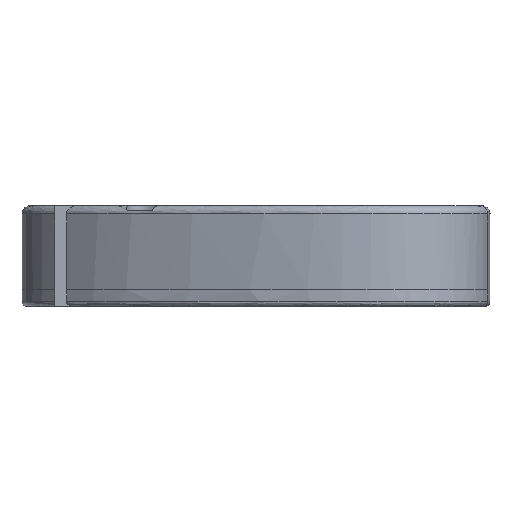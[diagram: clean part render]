
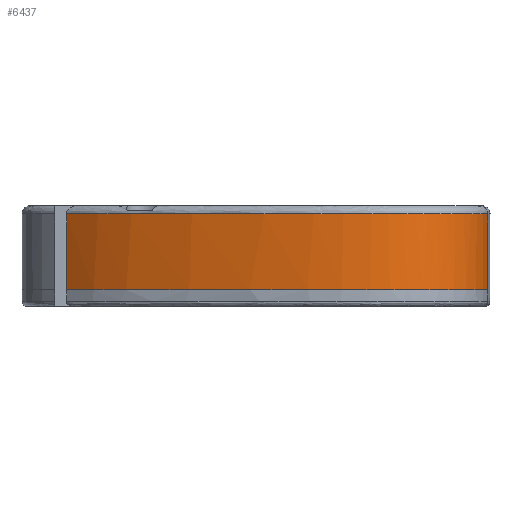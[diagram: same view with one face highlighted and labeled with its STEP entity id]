
A CAD part, front view. The second image highlights one B-rep face of the part: STEP entity #6437.
In plain terms, the highlighted free-form (B-spline) face has degree [5, 1] with [18, 2] control points.
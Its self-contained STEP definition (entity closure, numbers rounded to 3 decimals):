
#1772=LINE('',#12810,#7438);
#2325=VERTEX_POINT('',#11547);
#2326=VERTEX_POINT('',#11582);
#2358=VERTEX_POINT('',#11709);
#2366=VERTEX_POINT('',#12647);
#2682=B_SPLINE_CURVE_WITH_KNOTS('',3,(#11548,#11549,#11550,#11551,#11552,
#11553,#11554,#11555,#11556,#11557,#11558,#11559,#11560,#11561,#11562,#11563,
#11564,#11565,#11566,#11567,#11568,#11569,#11570,#11571,#11572,#11573,#11574,
#11575,#11576,#11577,#11578,#11579,#11580,#11581),.UNSPECIFIED.,.F.,.U.,
(4,2,2,2,2,2,2,2,2,2,2,2,2,2,2,2,4),(0.,1.93,6.621,
9.832,13.042,17.055,19.563,22.071,
26.084,29.294,32.504,33.527,34.55,
35.572,36.595,38.207,39.125),.UNSPECIFIED.);
#2689=B_SPLINE_CURVE_WITH_KNOTS('',3,(#11710,#11711,#11712,#11713),.UNSPECIFIED.,
.F.,.U.,(4,4),(-4.584,0.),.UNSPECIFIED.);
#2692=B_SPLINE_CURVE_WITH_KNOTS('',3,(#12213,#12214,#12215,#12216,#12217,
#12218,#12219,#12220),.UNSPECIFIED.,.F.,.U.,(4,1,1,1,1,4),(6.,7.,8.,9.,10.,
10.5),.UNSPECIFIED.);
#3523=EDGE_CURVE('',#2325,#2326,#2682,.F.);
#3563=EDGE_CURVE('',#2325,#2358,#2689,.T.);
#3581=EDGE_CURVE('',#2366,#2358,#2692,.T.);
#3583=EDGE_CURVE('',#2366,#2326,#1772,.T.);
#5347=ORIENTED_EDGE('',*,*,#3563,.T.);
#5348=ORIENTED_EDGE('',*,*,#3581,.F.);
#5349=ORIENTED_EDGE('',*,*,#3583,.T.);
#5350=ORIENTED_EDGE('',*,*,#3523,.F.);
#5731=EDGE_LOOP('',(#5347,#5348,#5349,#5350));
#6106=FACE_BOUND('',#5731,.T.);
#6437=ADVANCED_FACE('',(#6106),#6604,.T.);
#6604=B_SPLINE_SURFACE_WITH_KNOTS('',5,1,((#12774,#12775),(#12776,#12777),
(#12778,#12779),(#12780,#12781),(#12782,#12783),(#12784,#12785),(#12786,
#12787),(#12788,#12789),(#12790,#12791),(#12792,#12793),(#12794,#12795),
(#12796,#12797),(#12798,#12799),(#12800,#12801),(#12802,#12803),(#12804,
#12805),(#12806,#12807),(#12808,#12809)),.UNSPECIFIED.,.F.,.F.,.U.,(6,3,
3,3,3,6),(2,2),(-10.5,-10.,-9.,-8.,-7.,-6.),(0.,5.),.UNSPECIFIED.);
#7438=VECTOR('',#13728,1.);
#11547=CARTESIAN_POINT('',(167.448,105.201,5.5));
#11548=CARTESIAN_POINT('',(192.473,104.235,5.5));
#11549=CARTESIAN_POINT('',(192.329,103.554,5.5));
#11550=CARTESIAN_POINT('',(192.077,102.892,5.5));
#11551=CARTESIAN_POINT('',(190.913,100.803,5.5));
#11552=CARTESIAN_POINT('',(189.517,99.645,5.5));
#11553=CARTESIAN_POINT('',(186.807,98.744,5.5));
#11554=CARTESIAN_POINT('',(185.666,98.662,5.5));
#11555=CARTESIAN_POINT('',(183.441,98.726,5.5));
#11556=CARTESIAN_POINT('',(182.355,98.874,5.5));
#11557=CARTESIAN_POINT('',(179.942,99.343,5.5));
#11558=CARTESIAN_POINT('',(178.624,99.702,5.5));
#11559=CARTESIAN_POINT('',(176.522,100.384,5.5));
#11560=CARTESIAN_POINT('',(175.726,100.67,5.5));
#11561=CARTESIAN_POINT('',(174.148,101.29,5.5));
#11562=CARTESIAN_POINT('',(173.364,101.624,5.5));
#11563=CARTESIAN_POINT('',(171.36,102.568,5.5));
#11564=CARTESIAN_POINT('',(170.157,103.219,5.5));
#11565=CARTESIAN_POINT('',(168.113,104.609,5.5));
#11566=CARTESIAN_POINT('',(167.231,105.313,5.5));
#11567=CARTESIAN_POINT('',(165.727,107.006,5.5));
#11568=CARTESIAN_POINT('',(165.081,108.015,5.5));
#11569=CARTESIAN_POINT('',(164.796,109.599,5.5));
#11570=CARTESIAN_POINT('',(164.775,110.003,5.5));
#11571=CARTESIAN_POINT('',(164.917,110.824,5.5));
#11572=CARTESIAN_POINT('',(165.094,111.25,5.5));
#11573=CARTESIAN_POINT('',(165.694,111.918,5.5));
#11574=CARTESIAN_POINT('',(166.094,112.137,5.5));
#11575=CARTESIAN_POINT('',(166.86,112.385,5.5));
#11576=CARTESIAN_POINT('',(167.229,112.437,5.5));
#11577=CARTESIAN_POINT('',(168.168,112.519,5.5));
#11578=CARTESIAN_POINT('',(168.722,112.509,5.5));
#11579=CARTESIAN_POINT('',(169.583,112.472,5.5));
#11580=CARTESIAN_POINT('',(169.894,112.453,5.5));
#11581=CARTESIAN_POINT('',(170.202,112.431,5.5));
#11582=CARTESIAN_POINT('',(192.473,104.235,5.5));
#11709=CARTESIAN_POINT('',(167.448,105.201,1.));
#11710=CARTESIAN_POINT('',(167.448,105.201,5.584));
#11711=CARTESIAN_POINT('',(167.448,105.201,4.056));
#11712=CARTESIAN_POINT('',(167.448,105.201,2.528));
#11713=CARTESIAN_POINT('',(167.448,105.201,1.));
#12213=CARTESIAN_POINT('',(192.473,104.235,1.));
#12214=CARTESIAN_POINT('',(191.999,101.997,1.));
#12215=CARTESIAN_POINT('',(188.524,97.074,1.));
#12216=CARTESIAN_POINT('',(174.375,100.509,1.));
#12217=CARTESIAN_POINT('',(164.358,106.473,1.));
#12218=CARTESIAN_POINT('',(164.358,112.627,1.));
#12219=CARTESIAN_POINT('',(168.623,112.543,1.));
#12220=CARTESIAN_POINT('',(170.202,112.431,1.));
#12647=CARTESIAN_POINT('',(192.473,104.235,1.));
#12774=CARTESIAN_POINT('',(170.202,112.431,1.));
#12775=CARTESIAN_POINT('',(170.202,112.431,6.));
#12776=CARTESIAN_POINT('',(169.255,112.498,1.));
#12777=CARTESIAN_POINT('',(169.255,112.498,6.));
#12778=CARTESIAN_POINT('',(168.354,112.54,1.));
#12779=CARTESIAN_POINT('',(168.354,112.54,6.));
#12780=CARTESIAN_POINT('',(167.533,112.523,1.));
#12781=CARTESIAN_POINT('',(167.533,112.523,6.));
#12782=CARTESIAN_POINT('',(165.401,112.196,1.));
#12783=CARTESIAN_POINT('',(165.401,112.196,6.));
#12784=CARTESIAN_POINT('',(164.548,110.736,1.));
#12785=CARTESIAN_POINT('',(164.548,110.736,6.));
#12786=CARTESIAN_POINT('',(164.525,109.45,1.));
#12787=CARTESIAN_POINT('',(164.525,109.45,6.));
#12788=CARTESIAN_POINT('',(165.527,106.639,1.));
#12789=CARTESIAN_POINT('',(165.527,106.639,6.));
#12790=CARTESIAN_POINT('',(168.532,104.111,1.));
#12791=CARTESIAN_POINT('',(168.532,104.111,6.));
#12792=CARTESIAN_POINT('',(170.437,102.937,1.));
#12793=CARTESIAN_POINT('',(170.437,102.937,6.));
#12794=CARTESIAN_POINT('',(174.857,100.804,1.));
#12795=CARTESIAN_POINT('',(174.857,100.804,6.));
#12796=CARTESIAN_POINT('',(180.104,99.177,1.));
#12797=CARTESIAN_POINT('',(180.104,99.177,6.));
#12798=CARTESIAN_POINT('',(182.716,98.628,1.));
#12799=CARTESIAN_POINT('',(182.716,98.628,6.));
#12800=CARTESIAN_POINT('',(187.482,98.336,1.));
#12801=CARTESIAN_POINT('',(187.482,98.336,6.));
#12802=CARTESIAN_POINT('',(190.46,100.208,1.));
#12803=CARTESIAN_POINT('',(190.46,100.208,6.));
#12804=CARTESIAN_POINT('',(191.525,101.483,1.));
#12805=CARTESIAN_POINT('',(191.525,101.483,6.));
#12806=CARTESIAN_POINT('',(192.189,102.892,1.));
#12807=CARTESIAN_POINT('',(192.189,102.892,6.));
#12808=CARTESIAN_POINT('',(192.473,104.235,1.));
#12809=CARTESIAN_POINT('',(192.473,104.235,6.));
#12810=CARTESIAN_POINT('',(192.473,104.235,1.));
#13728=DIRECTION('',(0.,0.,1.));
